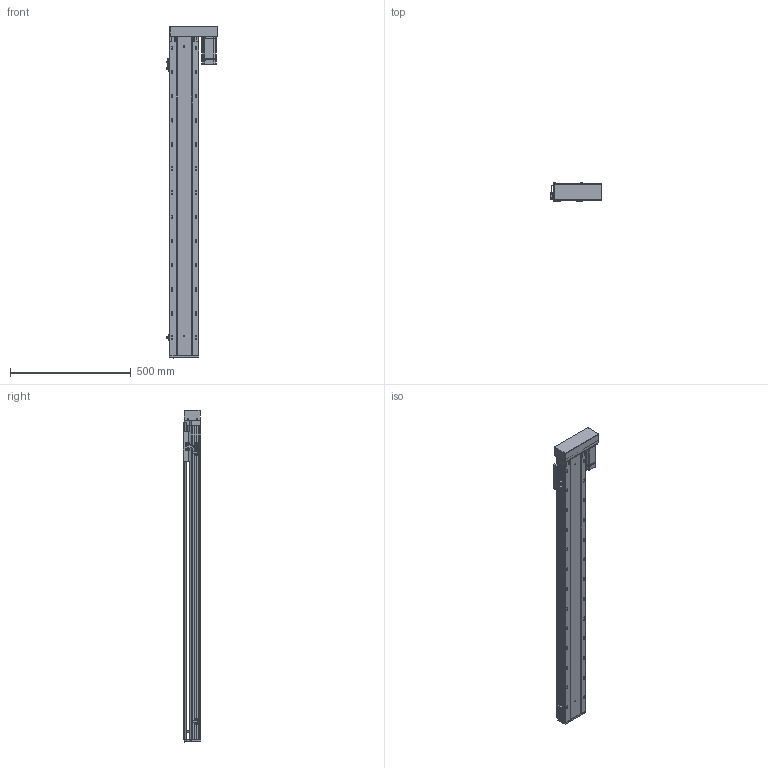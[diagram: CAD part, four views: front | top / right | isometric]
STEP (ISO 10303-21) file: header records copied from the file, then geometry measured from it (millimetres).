
FILE_DESCRIPTION (( 'STEP AP203' ), '1' );
FILE_NAME ('RY120-L2020-1000-RK.SLDASM_1100.step', '2021-03-12T07:29:51', ( '盈信电脑' ), ( '东莞市道滘镇水果街19号' ), 'SwSTEP 2.0', 'SolidWorks 2012', '' );
FILE_SCHEMA (( 'CONFIG_CONTROL_DESIGN' ));
Products named in the file (15): 滅袉蝶18-10; 滅袉蝶18-24; RY120外置感应片(140共用）; 覜茼ん672; RY120-1000-RK蛌殏倰第奻裔啣_1100; RY120綴裔啣; RY120臏賑輸(20蹟譫); RY120-1000-RK蛌殏倰第菁釱_1100; RY120-L2020-1000-RK.SLDASM_1100; 侂狟400W侜督萇儂; 15; RY120-400W萇儂傷-酘衵殏_450; RY120蛌殏萇儂欶; RY120转拆电端丝杆支撑座(20丝杆，7002轴承); RY120酘殏萇儂假蚾啣
Assembly tree (17 placements, depth 4):
  RY120-L2020-1000-RK.SLDASM_1100
    RY120-1000-RK蛌殏倰第菁釱_1100
    RY120-1000-RK蛌殏倰第奻裔啣_1100
    RY120臏賑輸(20蹟譫)
    RY120綴裔啣
    覜茼ん672  x3
    滅袉蝶18-10
    滅袉蝶18-24  x2
    RY120外置感应片(140共用）
    RY120转拆电端丝杆支撑座(20丝杆，7002轴承)
    RY120-400W萇儂傷-酘衵殏_450
      RY120酘殏萇儂假蚾啣
      侂狟400W侜督萇儂
        15
      RY120蛌殏萇儂欶
Bounding box: 214.2 x 73 x 1375 mm (x, y, z)
Volume: 3779827.6 mm3; surface area: 1415213.2 mm2
Topology: 16 solids, 16 shells, 2744 faces, 7615 edges, 4870 vertices
Faces by surface type: plane 1276, cylinder 1104, cone 259, bspline 105
Entity records: 92915 total; most frequent: CARTESIAN_POINT 27169, ORIENTED_EDGE 13862, DIRECTION 12603, EDGE_CURVE 6931, VERTEX_POINT 4538, AXIS2_PLACEMENT_3D 4253, VECTOR 4097, LINE 4097
